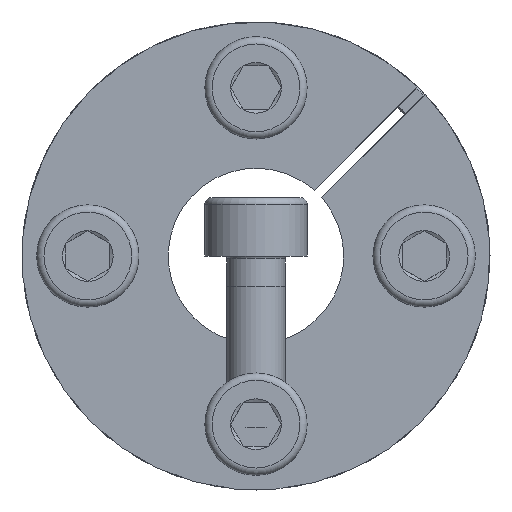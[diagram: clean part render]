
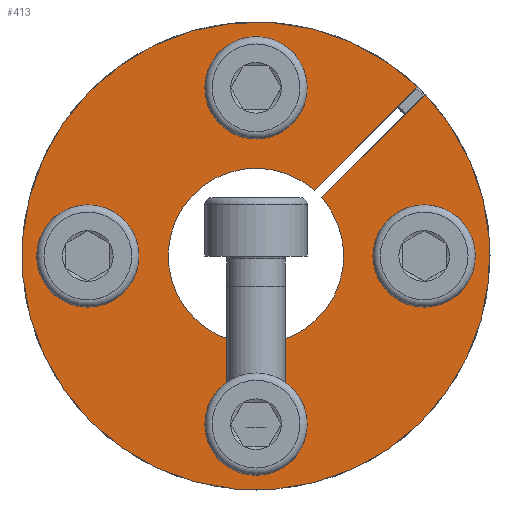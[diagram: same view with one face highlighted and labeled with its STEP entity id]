
A CAD part, front view. The second image highlights one B-rep face of the part: STEP entity #413.
In plain terms, the highlighted planar face has unit normal (0, -1, 0).
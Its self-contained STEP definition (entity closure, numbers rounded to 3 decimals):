
#413 = ADVANCED_FACE( '', ( #707, #708, #709, #710, #711 ), #712, .F. );
#707 = FACE_BOUND( '', #1015, .T. );
#708 = FACE_BOUND( '', #1016, .T. );
#709 = FACE_BOUND( '', #1017, .T. );
#710 = FACE_BOUND( '', #1018, .T. );
#711 = FACE_OUTER_BOUND( '', #1019, .T. );
#712 = PLANE( '', #1020 );
#1015 = EDGE_LOOP( '', ( #1434 ) );
#1016 = EDGE_LOOP( '', ( #1435 ) );
#1017 = EDGE_LOOP( '', ( #1436 ) );
#1018 = EDGE_LOOP( '', ( #1437 ) );
#1019 = EDGE_LOOP( '', ( #1438, #1439, #1440, #1441 ) );
#1020 = AXIS2_PLACEMENT_3D( '', #1442, #1443, #1444 );
#1434 = ORIENTED_EDGE( '', *, *, #2089, .T. );
#1435 = ORIENTED_EDGE( '', *, *, #2100, .T. );
#1436 = ORIENTED_EDGE( '', *, *, #2101, .T. );
#1437 = ORIENTED_EDGE( '', *, *, #2093, .T. );
#1438 = ORIENTED_EDGE( '', *, *, #2087, .T. );
#1439 = ORIENTED_EDGE( '', *, *, #2094, .T. );
#1440 = ORIENTED_EDGE( '', *, *, #2064, .T. );
#1441 = ORIENTED_EDGE( '', *, *, #2055, .F. );
#1442 = CARTESIAN_POINT( '', ( 0., 0., 16. ) );
#1443 = DIRECTION( '', ( 0., 1., 0. ) );
#1444 = DIRECTION( '', ( 0., 0., 1. ) );
#2055 = EDGE_CURVE( '', #2278, #2274, #2280, .T. );
#2064 = EDGE_CURVE( '', #2297, #2274, #2298, .T. );
#2087 = EDGE_CURVE( '', #2278, #2333, #2335, .T. );
#2089 = EDGE_CURVE( '', #2338, #2338, #2339, .T. );
#2093 = EDGE_CURVE( '', #2344, #2344, #2345, .T. );
#2094 = EDGE_CURVE( '', #2333, #2297, #2346, .T. );
#2100 = EDGE_CURVE( '', #2355, #2355, #2356, .T. );
#2101 = EDGE_CURVE( '', #2357, #2357, #2358, .T. );
#2274 = VERTEX_POINT( '', #2539 );
#2278 = VERTEX_POINT( '', #2544 );
#2280 = CIRCLE( '', #2547, 6. );
#2297 = VERTEX_POINT( '', #2572 );
#2298 = LINE( '', #2573, #2574 );
#2333 = VERTEX_POINT( '', #2638 );
#2335 = LINE( '', #2641, #2642 );
#2338 = VERTEX_POINT( '', #2645 );
#2339 = CIRCLE( '', #2646, 2. );
#2344 = VERTEX_POINT( '', #2651 );
#2345 = CIRCLE( '', #2652, 2. );
#2346 = CIRCLE( '', #2653, 16. );
#2355 = VERTEX_POINT( '', #2662 );
#2356 = CIRCLE( '', #2663, 2. );
#2357 = VERTEX_POINT( '', #2664 );
#2358 = CIRCLE( '', #2665, 2. );
#2539 = CARTESIAN_POINT( '', ( 4.5, 0., 3.969 ) );
#2544 = CARTESIAN_POINT( '', ( 3.969, 0., 4.5 ) );
#2547 = AXIS2_PLACEMENT_3D( '', #3000, #3001, #3002 );
#2572 = CARTESIAN_POINT( '', ( 11.576, 0., 11.045 ) );
#2573 = CARTESIAN_POINT( '', ( 11.579, 0., 11.049 ) );
#2574 = VECTOR( '', #3017, 1000. );
#2638 = CARTESIAN_POINT( '', ( 11.045, 0., 11.576 ) );
#2641 = CARTESIAN_POINT( '', ( 3.969, 0., 4.5 ) );
#2642 = VECTOR( '', #3042, 1000. );
#2645 = CARTESIAN_POINT( '', ( 2., 0., 11.5 ) );
#2646 = AXIS2_PLACEMENT_3D( '', #3046, #3047, #3048 );
#2651 = CARTESIAN_POINT( '', ( -11.5, 0., 2. ) );
#2652 = AXIS2_PLACEMENT_3D( '', #3058, #3059, #3060 );
#2653 = AXIS2_PLACEMENT_3D( '', #3061, #3062, #3063 );
#2662 = CARTESIAN_POINT( '', ( 11.5, 0., -2. ) );
#2663 = AXIS2_PLACEMENT_3D( '', #3079, #3080, #3081 );
#2664 = CARTESIAN_POINT( '', ( -2., 0., -11.5 ) );
#2665 = AXIS2_PLACEMENT_3D( '', #3082, #3083, #3084 );
#3000 = CARTESIAN_POINT( '', ( 0., 0., 0. ) );
#3001 = DIRECTION( '', ( 0., -1., 0. ) );
#3002 = DIRECTION( '', ( 0., 0., -1. ) );
#3017 = DIRECTION( '', ( -0.707, 0., -0.707 ) );
#3042 = DIRECTION( '', ( 0.707, 0., 0.707 ) );
#3046 = CARTESIAN_POINT( '', ( 0., 0., 11.5 ) );
#3047 = DIRECTION( '', ( 0., 1., 0. ) );
#3048 = DIRECTION( '', ( 1., 0., 0. ) );
#3058 = CARTESIAN_POINT( '', ( -11.5, 0., 0. ) );
#3059 = DIRECTION( '', ( 0., 1., 0. ) );
#3060 = DIRECTION( '', ( 0., 0., 1. ) );
#3061 = CARTESIAN_POINT( '', ( 0., 0., 0. ) );
#3062 = DIRECTION( '', ( 0., -1., 0. ) );
#3063 = DIRECTION( '', ( 0., 0., -1. ) );
#3079 = CARTESIAN_POINT( '', ( 11.5, 0., 0. ) );
#3080 = DIRECTION( '', ( 0., 1., 0. ) );
#3081 = DIRECTION( '', ( 0., 0., -1. ) );
#3082 = CARTESIAN_POINT( '', ( 0., 0., -11.5 ) );
#3083 = DIRECTION( '', ( 0., 1., 0. ) );
#3084 = DIRECTION( '', ( -1., 0., 0. ) );
